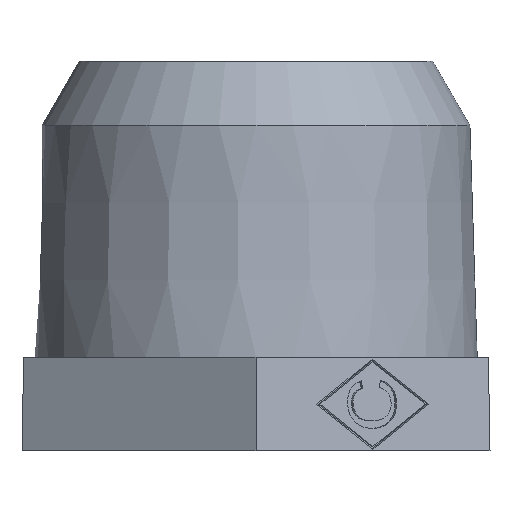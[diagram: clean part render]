
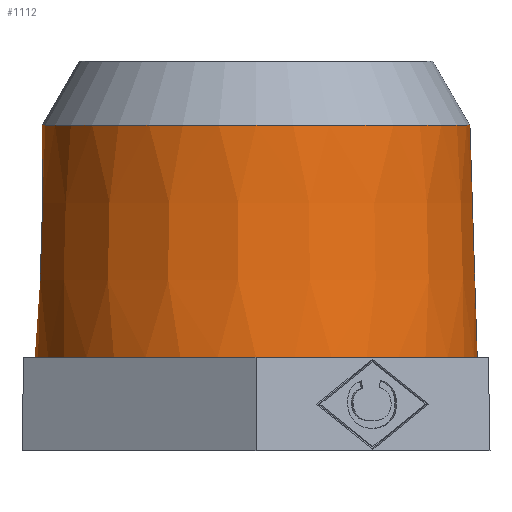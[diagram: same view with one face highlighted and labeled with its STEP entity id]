
A CAD part, front view. The second image highlights one B-rep face of the part: STEP entity #1112.
In plain terms, the highlighted conical face has half-angle 1.8 degrees and reference radius 14.18 mm.
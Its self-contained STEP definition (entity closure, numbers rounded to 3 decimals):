
#1081=CARTESIAN_POINT('',(13.712,0.,20.879));
#1082=VERTEX_POINT('',#1081);
#1083=CARTESIAN_POINT('',(0.,0.,20.879));
#1084=DIRECTION('',(0.0,0.0,1.0));
#1085=DIRECTION('',(-1.0,0.0,0.0));
#1086=AXIS2_PLACEMENT_3D('',#1083,#1084,#1085);
#1087=CIRCLE('',#1086,13.712);
#1088=EDGE_CURVE('',#1082,#1082,#1087,.T.);
#1093=CARTESIAN_POINT('',(0.,0.,6.));
#1094=DIRECTION('',(0.,0.,-1.0));
#1095=DIRECTION('',(-1.0,0.0,0.0));
#1096=AXIS2_PLACEMENT_3D('',#1093,#1094,#1095);
#1097=CONICAL_SURFACE('',#1096,14.18,1.8);
#1098=CARTESIAN_POINT('',(14.18,0.,6.));
#1099=VERTEX_POINT('',#1098);
#1100=CARTESIAN_POINT('',(0.,0.,6.));
#1101=DIRECTION('',(0.0,0.0,-1.0));
#1102=DIRECTION('',(-1.0,0.0,0.0));
#1103=AXIS2_PLACEMENT_3D('',#1100,#1101,#1102);
#1104=CIRCLE('',#1103,14.18);
#1105=EDGE_CURVE('',#1099,#1099,#1104,.T.);
#1106=ORIENTED_EDGE('',*,*,#1105,.F.);
#1107=EDGE_LOOP('',(#1106));
#1108=FACE_OUTER_BOUND('',#1107,.T.);
#1109=ORIENTED_EDGE('',*,*,#1088,.F.);
#1110=EDGE_LOOP('',(#1109));
#1111=FACE_BOUND('',#1110,.T.);
#1112=ADVANCED_FACE('',(#1108,#1111),#1097,.T.);
